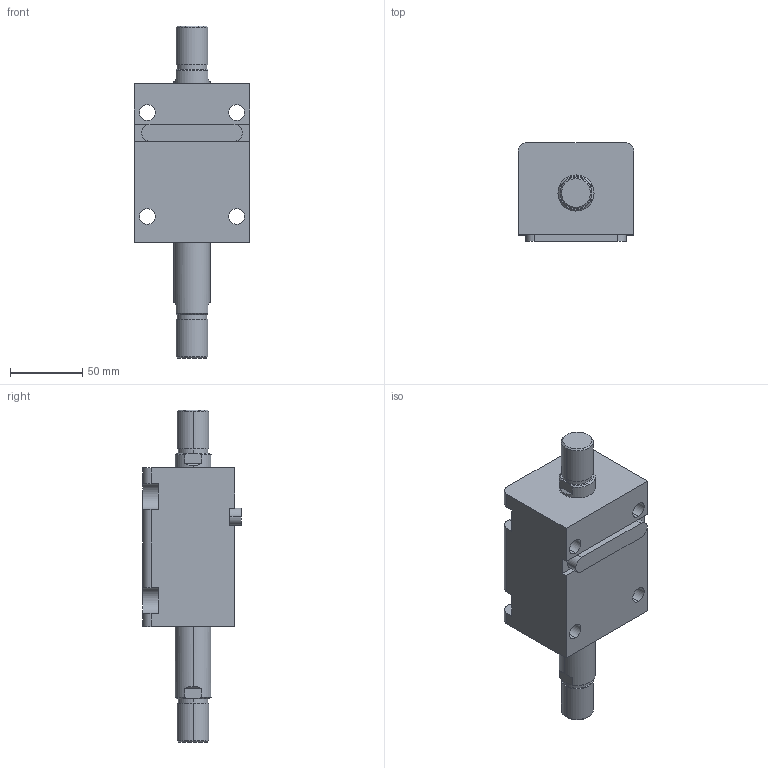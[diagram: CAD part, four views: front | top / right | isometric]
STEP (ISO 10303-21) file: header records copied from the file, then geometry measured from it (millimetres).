
FILE_DESCRIPTION (( 'STEP AP203' ), '1' );
FILE_NAME ('HTB-LW40-40W.STEP', '2019-10-09T07:55:30', ( '微软用户' ), ( '微软中国' ), 'SwSTEP 2.0', 'SolidWorks 2012', '' );
FILE_SCHEMA (( 'CONFIG_CONTROL_DESIGN' ));
Length unit declared in the file: millimetre
Products named in the file (4): HTB-LW40-40W; HTB-LA40-瑩; HTB-LW40-40W活塞杆; HTB-LW40-40掛极
Assembly tree (3 placements, depth 2):
  HTB-LW40-40W
    HTB-LW40-40掛极
    HTB-LW40-40W活塞杆
    HTB-LA40-瑩
Bounding box: 80 x 68.5 x 230 mm (x, y, z)
Volume: 550919.2 mm3; surface area: 85874.2 mm2
Topology: 3 solids, 3 shells, 113 faces, 273 edges, 178 vertices
Faces by surface type: plane 48, cylinder 45, cone 12, torus 8
Entity records: 3779 total; most frequent: CARTESIAN_POINT 622, DIRECTION 617, ORIENTED_EDGE 546, EDGE_CURVE 273, AXIS2_PLACEMENT_3D 241, VERTEX_POINT 178, EDGE_LOOP 135, VECTOR 135
